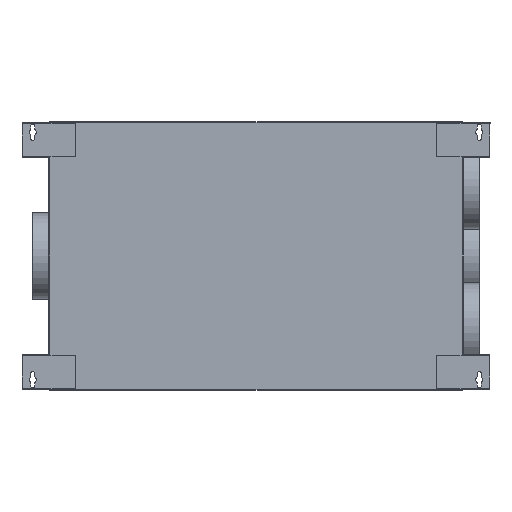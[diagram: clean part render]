
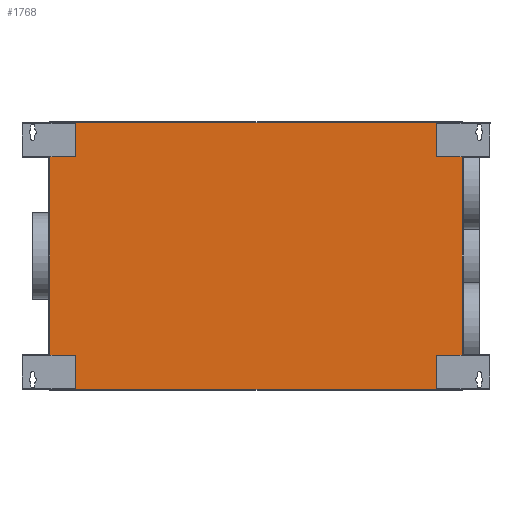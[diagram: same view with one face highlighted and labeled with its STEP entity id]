
A CAD part, left-side view. The second image highlights one B-rep face of the part: STEP entity #1768.
In plain terms, the highlighted planar face has unit normal (-1, 0, 0).
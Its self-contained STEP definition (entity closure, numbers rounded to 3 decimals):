
#67=PLANE('',#1998);
#157=FACE_OUTER_BOUND('',#266,.T.);
#266=EDGE_LOOP('',(#1301,#1302,#1303,#1304));
#382=LINE('',#2759,#566);
#391=LINE('',#2792,#575);
#393=LINE('',#2795,#577);
#395=LINE('',#2798,#579);
#566=VECTOR('',#2205,10.);
#575=VECTOR('',#2242,10.);
#577=VECTOR('',#2246,10.);
#579=VECTOR('',#2250,10.);
#814=VERTEX_POINT('',#2742);
#818=VERTEX_POINT('',#2750);
#822=VERTEX_POINT('',#2765);
#824=VERTEX_POINT('',#2770);
#986=EDGE_CURVE('',#814,#818,#382,.T.);
#1003=EDGE_CURVE('',#818,#824,#391,.T.);
#1005=EDGE_CURVE('',#824,#822,#393,.T.);
#1007=EDGE_CURVE('',#822,#814,#395,.T.);
#1301=ORIENTED_EDGE('',*,*,#986,.F.);
#1302=ORIENTED_EDGE('',*,*,#1007,.F.);
#1303=ORIENTED_EDGE('',*,*,#1005,.F.);
#1304=ORIENTED_EDGE('',*,*,#1003,.F.);
#1768=ADVANCED_FACE('',(#157),#67,.T.);
#1998=AXIS2_PLACEMENT_3D('',#2811,#2267,#2268);
#2205=DIRECTION('',(0.,1.,0.));
#2242=DIRECTION('',(0.,0.,1.));
#2246=DIRECTION('',(0.,-1.,0.));
#2250=DIRECTION('',(0.,0.,-1.));
#2267=DIRECTION('center_axis',(-1.,0.,0.));
#2268=DIRECTION('ref_axis',(0.,0.,-1.));
#2742=CARTESIAN_POINT('',(-105.,-768.,-248.));
#2750=CARTESIAN_POINT('',(-105.,-2.,-248.));
#2759=CARTESIAN_POINT('',(-105.,0.,-248.));
#2765=CARTESIAN_POINT('',(-105.,-768.,248.));
#2770=CARTESIAN_POINT('',(-105.,-2.,248.));
#2792=CARTESIAN_POINT('',(-105.,-2.,125.));
#2795=CARTESIAN_POINT('',(-105.,0.,248.));
#2798=CARTESIAN_POINT('',(-105.,-768.,125.));
#2811=CARTESIAN_POINT('Origin',(-105.,0.,250.));
